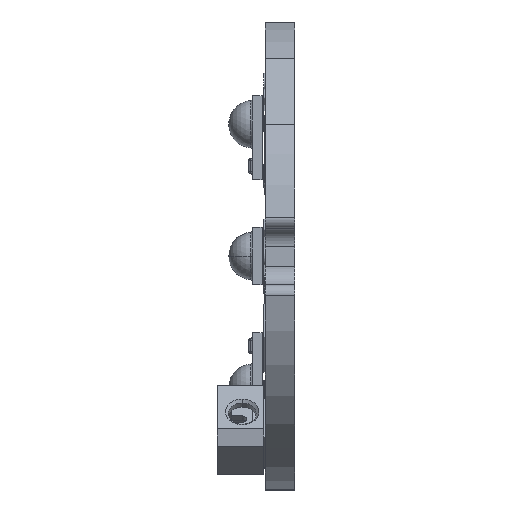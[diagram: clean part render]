
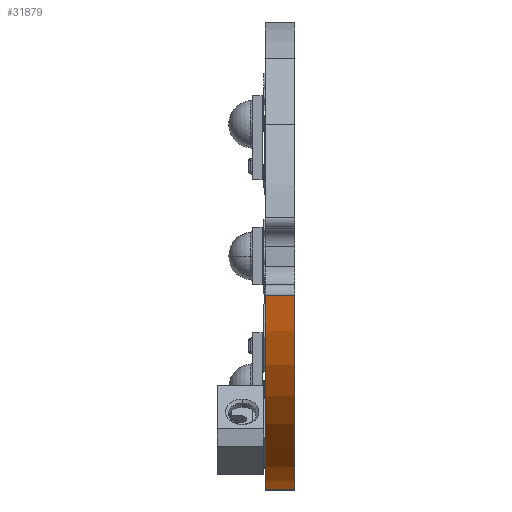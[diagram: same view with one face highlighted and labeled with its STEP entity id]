
A CAD part, left-side view. The second image highlights one B-rep face of the part: STEP entity #31879.
In plain terms, the highlighted cylindrical face has radius 12.708 mm (diameter 25.416 mm), a partial arc.
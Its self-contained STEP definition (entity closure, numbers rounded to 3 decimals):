
#3764 = ORIENTED_EDGE ( 'NONE', *, *, #28831, .T. ) ;
#5420 = CARTESIAN_POINT ( 'NONE',  ( 57.342, 1.6, -38.559 ) ) ;
#6168 = CARTESIAN_POINT ( 'NONE',  ( 59.418, 0., -26.022 ) ) ;
#6888 = ORIENTED_EDGE ( 'NONE', *, *, #42514, .T. ) ;
#8035 = CARTESIAN_POINT ( 'NONE',  ( 46.888, 0., -28.143 ) ) ;
#8563 = VECTOR ( 'NONE', #36490, 1000. ) ;
#8925 = CIRCLE ( 'NONE', #37665, 12.708 ) ;
#9274 = CARTESIAN_POINT ( 'NONE',  ( 57.342, 0., -38.559 ) ) ;
#12635 = VERTEX_POINT ( 'NONE', #5420 ) ;
#18385 = DIRECTION ( 'NONE',  ( 0., -1., 0. ) ) ;
#19429 = CARTESIAN_POINT ( 'NONE',  ( 59.418, 1.6, -26.022 ) ) ;
#19951 = ORIENTED_EDGE ( 'NONE', *, *, #22029, .F. ) ;
#22029 = EDGE_CURVE ( 'NONE', #12635, #33929, #8925, .T. ) ;
#22706 = DIRECTION ( 'NONE',  ( 0., 0., 1. ) ) ;
#24873 = EDGE_CURVE ( 'NONE', #33929, #34669, #30735, .T. ) ;
#25168 = CARTESIAN_POINT ( 'NONE',  ( 57.342, 1.6, -38.559 ) ) ;
#25477 = DIRECTION ( 'NONE',  ( 0., 0., 1. ) ) ;
#25882 = CIRCLE ( 'NONE', #33308, 12.708 ) ;
#26132 = FACE_OUTER_BOUND ( 'NONE', #30940, .T. ) ;
#26909 = DIRECTION ( 'NONE',  ( 0., 0., -1. ) ) ;
#28831 = EDGE_CURVE ( 'NONE', #12635, #38351, #48602, .T. ) ;
#29833 = DIRECTION ( 'NONE',  ( 0., 1., 0. ) ) ;
#30735 = LINE ( 'NONE', #46164, #47046 ) ;
#30940 = EDGE_LOOP ( 'NONE', ( #6888, #34871, #19951, #3764 ) ) ;
#31879 = ADVANCED_FACE ( 'NONE', ( #26132 ), #33613, .T. ) ;
#33308 = AXIS2_PLACEMENT_3D ( 'NONE', #6168, #29833, #25477 ) ;
#33613 = CYLINDRICAL_SURFACE ( 'NONE', #49266, 12.708 ) ;
#33929 = VERTEX_POINT ( 'NONE', #48395 ) ;
#34669 = VERTEX_POINT ( 'NONE', #8035 ) ;
#34871 = ORIENTED_EDGE ( 'NONE', *, *, #24873, .F. ) ;
#36490 = DIRECTION ( 'NONE',  ( 0., -1., 0. ) ) ;
#37665 = AXIS2_PLACEMENT_3D ( 'NONE', #45116, #38126, #22706 ) ;
#38126 = DIRECTION ( 'NONE',  ( 0., 1., 0. ) ) ;
#38351 = VERTEX_POINT ( 'NONE', #9274 ) ;
#42514 = EDGE_CURVE ( 'NONE', #38351, #34669, #25882, .T. ) ;
#43139 = DIRECTION ( 'NONE',  ( 0., -1., 0. ) ) ;
#45116 = CARTESIAN_POINT ( 'NONE',  ( 59.418, 1.6, -26.022 ) ) ;
#46164 = CARTESIAN_POINT ( 'NONE',  ( 46.888, 1.6, -28.143 ) ) ;
#47046 = VECTOR ( 'NONE', #18385, 1000. ) ;
#48395 = CARTESIAN_POINT ( 'NONE',  ( 46.888, 1.6, -28.143 ) ) ;
#48602 = LINE ( 'NONE', #25168, #8563 ) ;
#49266 = AXIS2_PLACEMENT_3D ( 'NONE', #19429, #43139, #26909 ) ;
